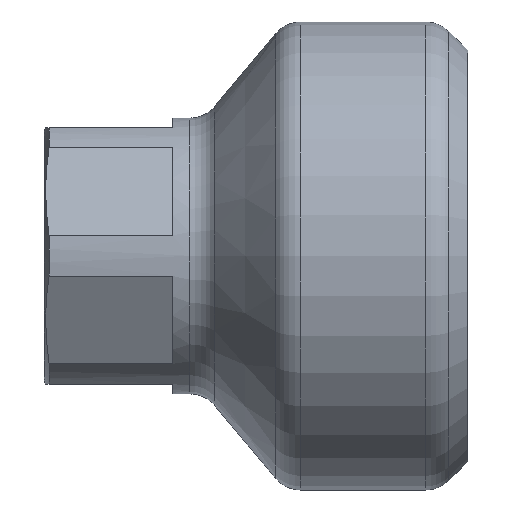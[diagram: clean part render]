
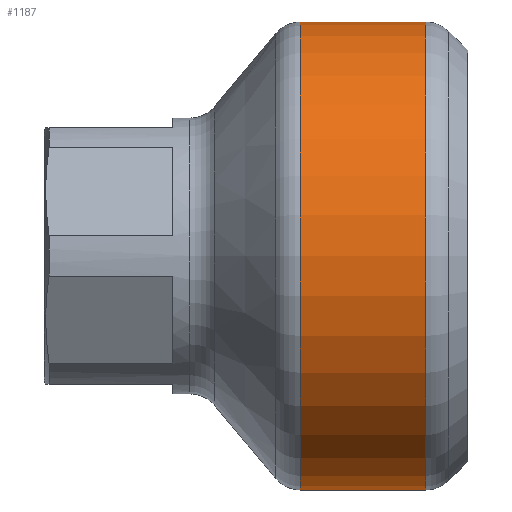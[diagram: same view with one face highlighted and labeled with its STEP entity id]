
A CAD part, top view. The second image highlights one B-rep face of the part: STEP entity #1187.
In plain terms, the highlighted cylindrical face has radius 36.5 mm (diameter 73 mm), a partial arc.
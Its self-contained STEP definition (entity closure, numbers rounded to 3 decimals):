
#109=DIRECTION('',(-1.,0.,0.));
#110=VECTOR('',#109,19.597);
#111=CARTESIAN_POINT('',(59.515,36.5,0.));
#112=LINE('',#111,#110);
#124=DIRECTION('',(-1.,0.,0.));
#125=VECTOR('',#124,19.597);
#126=CARTESIAN_POINT('',(59.515,-36.5,0.));
#127=LINE('',#126,#125);
#131=CARTESIAN_POINT('',(59.515,0.,0.));
#132=DIRECTION('',(-1.,0.,0.));
#133=DIRECTION('',(0.,-1.,0.));
#134=AXIS2_PLACEMENT_3D('',#131,#132,#133);
#139=CARTESIAN_POINT('',(39.918,0.,0.));
#140=DIRECTION('',(-1.,0.,0.));
#141=DIRECTION('',(0.,-1.,0.));
#142=AXIS2_PLACEMENT_3D('',#139,#140,#141);
#977=CARTESIAN_POINT('',(59.515,36.5,0.));
#978=CARTESIAN_POINT('',(59.515,-36.5,0.));
#979=VERTEX_POINT('',#977);
#980=VERTEX_POINT('',#978);
#989=CARTESIAN_POINT('',(39.918,36.5,0.));
#990=CARTESIAN_POINT('',(39.918,-36.5,0.));
#991=VERTEX_POINT('',#989);
#992=VERTEX_POINT('',#990);
#1174=CARTESIAN_POINT('',(-3.3,0.,0.));
#1175=DIRECTION('',(1.,0.,0.));
#1176=DIRECTION('',(0.,-1.,0.));
#1177=AXIS2_PLACEMENT_3D('',#1174,#1175,#1176);
#1178=CYLINDRICAL_SURFACE('',#1177,36.5);
#1180=ORIENTED_EDGE('',*,*,#1179,.F.);
#1181=ORIENTED_EDGE('',*,*,#1169,.T.);
#1183=ORIENTED_EDGE('',*,*,#1182,.T.);
#1184=ORIENTED_EDGE('',*,*,#1165,.F.);
#1185=EDGE_LOOP('',(#1180,#1181,#1183,#1184));
#1186=FACE_OUTER_BOUND('',#1185,.F.);
#135=CIRCLE('',#134,36.5);
#143=CIRCLE('',#142,36.5);
#1165=EDGE_CURVE('',#979,#991,#112,.T.);
#1169=EDGE_CURVE('',#980,#992,#127,.T.);
#1179=EDGE_CURVE('',#980,#979,#135,.T.);
#1182=EDGE_CURVE('',#992,#991,#143,.T.);
#1187=ADVANCED_FACE('',(#1186),#1178,.T.);
